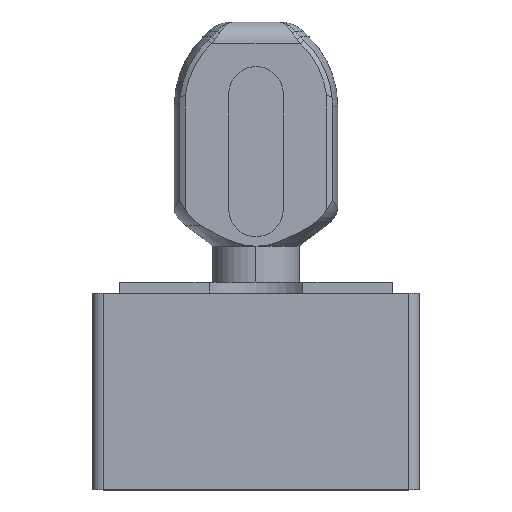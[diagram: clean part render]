
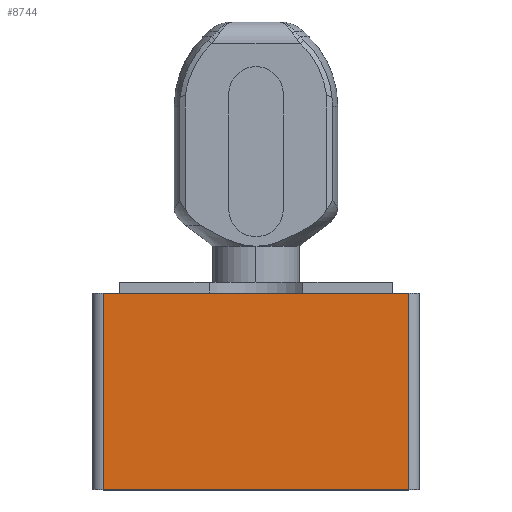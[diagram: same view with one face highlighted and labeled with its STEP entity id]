
A CAD part, top view. The second image highlights one B-rep face of the part: STEP entity #8744.
In plain terms, the highlighted planar face has unit normal (0, 0, 1).
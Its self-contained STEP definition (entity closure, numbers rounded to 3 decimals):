
#231 = ORIENTED_EDGE ( 'NONE', *, *, #1426, .T. ) ;
#291 = VECTOR ( 'NONE', #6148, 1000. ) ;
#564 = VERTEX_POINT ( 'NONE', #1893 ) ;
#1203 = CARTESIAN_POINT ( 'NONE',  ( 14., 0., 18. ) ) ;
#1426 = EDGE_CURVE ( 'NONE', #2760, #564, #9565, .T. ) ;
#1893 = CARTESIAN_POINT ( 'NONE',  ( -14., 0., 18. ) ) ;
#1898 = CARTESIAN_POINT ( 'NONE',  ( -14., 18., 18. ) ) ;
#1954 = AXIS2_PLACEMENT_3D ( 'NONE', #2565, #5134, #8438 ) ;
#2059 = ORIENTED_EDGE ( 'NONE', *, *, #9415, .T. ) ;
#2516 = ORIENTED_EDGE ( 'NONE', *, *, #6255, .T. ) ;
#2565 = CARTESIAN_POINT ( 'NONE',  ( 0., 0., 18. ) ) ;
#2684 = ORIENTED_EDGE ( 'NONE', *, *, #10664, .T. ) ;
#2760 = VERTEX_POINT ( 'NONE', #1898 ) ;
#2866 = CARTESIAN_POINT ( 'NONE',  ( -15., 0., 18. ) ) ;
#3740 = LINE ( 'NONE', #2866, #291 ) ;
#4118 = LINE ( 'NONE', #5756, #9030 ) ;
#4428 = VECTOR ( 'NONE', #6720, 1000. ) ;
#4970 = FACE_OUTER_BOUND ( 'NONE', #9241, .T. ) ;
#5134 = DIRECTION ( 'NONE',  ( 0., 0., 1. ) ) ;
#5252 = CARTESIAN_POINT ( 'NONE',  ( 14., 18., 18. ) ) ;
#5756 = CARTESIAN_POINT ( 'NONE',  ( -15., 18., 18. ) ) ;
#6015 = LINE ( 'NONE', #5252, #4428 ) ;
#6148 = DIRECTION ( 'NONE',  ( 1., 0., 0. ) ) ;
#6155 = VERTEX_POINT ( 'NONE', #9146 ) ;
#6197 = VECTOR ( 'NONE', #10433, 1000. ) ;
#6255 = EDGE_CURVE ( 'NONE', #9975, #6155, #6015, .T. ) ;
#6708 = PLANE ( 'NONE',  #1954 ) ;
#6720 = DIRECTION ( 'NONE',  ( 0., 1., 0. ) ) ;
#7090 = CARTESIAN_POINT ( 'NONE',  ( -14., 0., 18. ) ) ;
#8438 = DIRECTION ( 'NONE',  ( 1., 0., 0. ) ) ;
#8744 = ADVANCED_FACE ( 'NONE', ( #4970 ), #6708, .T. ) ;
#9030 = VECTOR ( 'NONE', #10740, 1000. ) ;
#9146 = CARTESIAN_POINT ( 'NONE',  ( 14., 18., 18. ) ) ;
#9241 = EDGE_LOOP ( 'NONE', ( #2059, #231, #2684, #2516 ) ) ;
#9415 = EDGE_CURVE ( 'NONE', #6155, #2760, #4118, .T. ) ;
#9565 = LINE ( 'NONE', #7090, #6197 ) ;
#9975 = VERTEX_POINT ( 'NONE', #1203 ) ;
#10433 = DIRECTION ( 'NONE',  ( 0., -1., 0. ) ) ;
#10664 = EDGE_CURVE ( 'NONE', #564, #9975, #3740, .T. ) ;
#10740 = DIRECTION ( 'NONE',  ( -1., 0., 0. ) ) ;
